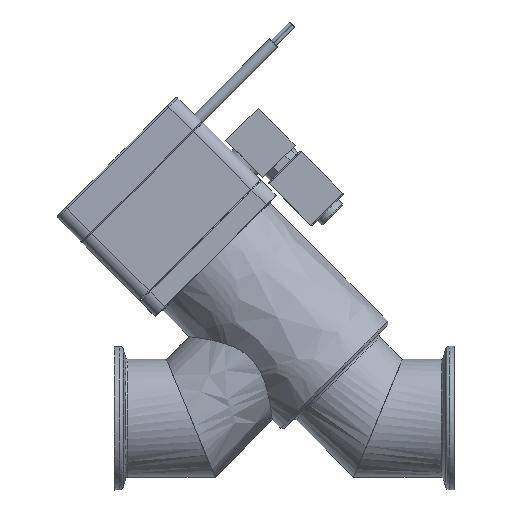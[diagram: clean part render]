
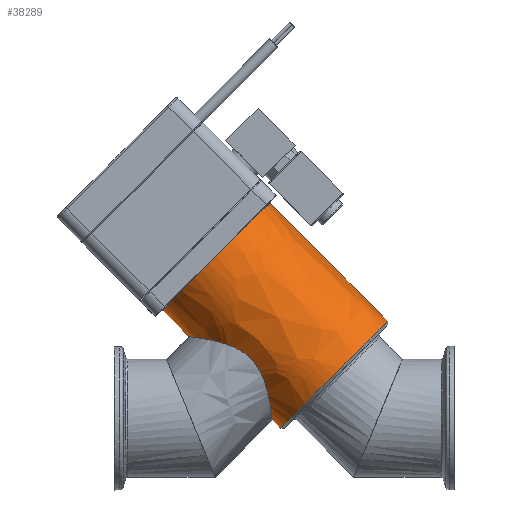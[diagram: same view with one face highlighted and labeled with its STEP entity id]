
A CAD part, top view. The second image highlights one B-rep face of the part: STEP entity #38289.
In plain terms, the highlighted free-form (B-spline) face has degree [2, 1] with [7, 2] control points.
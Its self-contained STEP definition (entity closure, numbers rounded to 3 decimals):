
#37288=CARTESIAN_POINT('V11',(102.,28.95,
   0.0));
#37289=VERTEX_POINT('V11',#37288);
#37313=CARTESIAN_POINT('E16',(102.,28.95,
   0.0));
#37314=CARTESIAN_POINT('E16',(102.0,28.95,
   -50.143));
#37315=CARTESIAN_POINT('E16',(102.,
   -14.475,-25.071));
#37316=CARTESIAN_POINT('E16',(102.0,-57.9,
   0.));
#37317=CARTESIAN_POINT('E16',(102.,
   -14.475,25.071));
#37318=CARTESIAN_POINT('E16',(102.0,28.95,
   50.143));
#37319=CARTESIAN_POINT('E16',(102.,28.95,
   0.0));
#37327=(BOUNDED_CURVE()B_SPLINE_CURVE(2,(#37313,#37314,#37315,
   #37316,#37317,#37318,#37319),.CIRCULAR_ARC.,.T.,.U.)
   B_SPLINE_CURVE_WITH_KNOTS((3,2,2,3),(0.0,355.788,
   711.577,1067.365),.UNSPECIFIED.)CURVE()
   GEOMETRIC_REPRESENTATION_ITEM()RATIONAL_B_SPLINE_CURVE((1.0,
   0.5,1.0,0.5,1.0,0.5,1.0)
   )REPRESENTATION_ITEM('E16'));
#37328=EDGE_CURVE('E16',#37289,#37289,#37327,.T.);
#38161=CARTESIAN_POINT('V8',(65.0,20.931,
   20.));
#38162=VERTEX_POINT('V8',#38161);
#38168=CARTESIAN_POINT('V9',(45.,28.95,
   0.0));
#38169=VERTEX_POINT('V9',#38168);
#38170=CARTESIAN_POINT('E10',(65.0,20.931,
   20.));
#38171=CARTESIAN_POINT('E10',(64.201,20.931,
   20.));
#38172=CARTESIAN_POINT('E10',(63.408,20.977,
   19.952));
#38173=CARTESIAN_POINT('E10',(59.932,21.369,
   19.536));
#38174=CARTESIAN_POINT('E10',(57.478,22.158,
   18.689));
#38175=CARTESIAN_POINT('E10',(53.132,23.977,
   16.297));
#38176=CARTESIAN_POINT('E10',(51.059,25.111,
   14.603));
#38177=CARTESIAN_POINT('E10',(47.714,27.115,
   10.395));
#38178=CARTESIAN_POINT('E10',(46.315,28.052,
   7.802));
#38179=CARTESIAN_POINT('E10',(45.192,28.816,
   3.188));
#38180=CARTESIAN_POINT('E10',(45.,28.95,
   1.603));
#38181=CARTESIAN_POINT('E10',(45.,28.95,
   0.0));
#38182=B_SPLINE_CURVE_WITH_KNOTS('E10',3,(#38170,#38171,#38172,
   #38173,#38174,#38175,#38176,#38177,#38178,#38179,#38180,#38181),
   .UNSPECIFIED.,.F.,.U.,(4,2,2,2,2,4),(0.0,0.076,
   0.337,0.61,0.87,1.0),
   .UNSPECIFIED.);
#38183=EDGE_CURVE('E10',#38162,#38169,#38182,.T.);
#38185=CARTESIAN_POINT('V10',(85.0,28.95,0.0));
#38186=VERTEX_POINT('V10',#38185);
#38187=CARTESIAN_POINT('E11',(45.,28.95,
   0.0));
#38188=CARTESIAN_POINT('E11',(45.,28.95,
   -1.87));
#38189=CARTESIAN_POINT('E11',(45.261,28.768,
   -3.714));
#38190=CARTESIAN_POINT('E11',(46.097,28.202,
   -6.643));
#38191=CARTESIAN_POINT('E11',(46.526,27.915,
   -7.752));
#38192=CARTESIAN_POINT('E11',(48.505,26.626,
   -11.788));
#38193=CARTESIAN_POINT('E11',(50.587,25.336,
   -14.162));
#38194=CARTESIAN_POINT('E11',(55.379,22.935,
   -17.813));
#38195=CARTESIAN_POINT('E11',(58.355,21.727,
   -19.147));
#38196=CARTESIAN_POINT('E11',(63.018,20.977,
   -19.954));
#38197=CARTESIAN_POINT('E11',(64.465,20.887,
   -20.047));
#38198=CARTESIAN_POINT('E11',(68.889,21.083,
   -19.841));
#38199=CARTESIAN_POINT('E11',(71.524,21.831,
   -19.062));
#38200=CARTESIAN_POINT('E11',(76.721,23.828,
   -16.547));
#38201=CARTESIAN_POINT('E11',(79.516,25.419,
   -14.257));
#38202=CARTESIAN_POINT('E11',(82.806,27.464,
   -9.36));
#38203=CARTESIAN_POINT('E11',(83.831,28.151,
   -7.205));
#38204=CARTESIAN_POINT('E11',(84.808,28.816,
   -3.188));
#38205=CARTESIAN_POINT('E11',(85.,28.95,
   -1.603));
#38206=CARTESIAN_POINT('E11',(85.,28.95,
   0.0));
#38207=B_SPLINE_CURVE_WITH_KNOTS('E11',3,(#38187,#38188,#38189,
   #38190,#38191,#38192,#38193,#38194,#38195,#38196,#38197,#38198,
   #38199,#38200,#38201,#38202,#38203,#38204,#38205,#38206),
   .UNSPECIFIED.,.F.,.U.,(4,2,2,2,2,2,2,2,2,4),(0.0,
   0.077,0.128,0.27,
   0.425,0.493,0.631,
   0.821,0.932,1.0),.UNSPECIFIED.);
#38208=EDGE_CURVE('E11',#38169,#38186,#38207,.T.);
#38210=CARTESIAN_POINT('E12',(85.,28.95,
   0.0));
#38211=CARTESIAN_POINT('E12',(85.,28.95,
   1.628));
#38212=CARTESIAN_POINT('E12',(84.802,28.812,
   3.236));
#38213=CARTESIAN_POINT('E12',(84.055,28.304,
   6.261));
#38214=CARTESIAN_POINT('E12',(83.534,27.953,
   7.658));
#38215=CARTESIAN_POINT('E12',(81.427,26.585,
   11.857));
#38216=CARTESIAN_POINT('E12',(79.397,25.33,
   14.167));
#38217=CARTESIAN_POINT('E12',(74.753,22.998,
   17.721));
#38218=CARTESIAN_POINT('E12',(71.917,21.837,
   19.025));
#38219=CARTESIAN_POINT('E12',(67.587,21.054,
   19.874));
#38220=CARTESIAN_POINT('E12',(66.303,20.931,
   20.));
#38221=CARTESIAN_POINT('E12',(65.0,20.931,
   20.));
#38222=B_SPLINE_CURVE_WITH_KNOTS('E12',3,(#38210,#38211,#38212,
   #38213,#38214,#38215,#38216,#38217,#38218,#38219,#38220,#38221),
   .UNSPECIFIED.,.F.,.U.,(4,2,2,2,2,4),(0.0,0.14,
   0.272,0.561,0.872,1.0),
   .UNSPECIFIED.);
#38223=EDGE_CURVE('E12',#38186,#38162,#38222,.T.);
#38230=CARTESIAN_POINT('F4',(37.,28.95,
   0.0));
#38231=CARTESIAN_POINT('F4',(37.,28.95,
   50.143));
#38232=CARTESIAN_POINT('F4',(37.,-14.475,
   25.071));
#38233=CARTESIAN_POINT('F4',(37.,-57.9,
   0.));
#38234=CARTESIAN_POINT('F4',(37.,-14.475,
   -25.071));
#38235=CARTESIAN_POINT('F4',(37.,28.95,
   -50.143));
#38236=CARTESIAN_POINT('F4',(37.,28.95,
   0.0));
#38237=CARTESIAN_POINT('F4',(102.,28.95,
   0.0));
#38238=CARTESIAN_POINT('F4',(102.0,28.95,
   50.143));
#38239=CARTESIAN_POINT('F4',(102.,-14.475,
   25.071));
#38240=CARTESIAN_POINT('F4',(102.0,-57.9,0.)
   );
#38241=CARTESIAN_POINT('F4',(102.,-14.475,
   -25.071));
#38242=CARTESIAN_POINT('F4',(102.0,28.95,
   -50.143));
#38243=CARTESIAN_POINT('F4',(102.,28.95,
   0.0));
#38251=(BOUNDED_SURFACE()B_SPLINE_SURFACE(2,1,((#38230,#38237),(
   #38231,#38238),(#38232,#38239),(#38233,#38240),(#38234,
   #38241),(#38235,#38242),(#38236,#38243)),.CYLINDRICAL_SURF.,
   .T.,.F.,.U.)B_SPLINE_SURFACE_WITH_KNOTS((3,2,2,3),(2,2),(0.0,
   1.543,3.086,4.629),(0.0,1.0),
   .UNSPECIFIED.)GEOMETRIC_REPRESENTATION_ITEM()
   RATIONAL_B_SPLINE_SURFACE(((1.0,1.0),(0.5,
   0.5),(1.0,1.0),(0.5,
   0.5),(1.0,1.0),(0.5,
   0.5),(1.0,1.0)))REPRESENTATION_ITEM('F4')SURFACE()
   );
#38252=CARTESIAN_POINT('V3',(38.,28.95,
   0.0));
#38253=VERTEX_POINT('V3',#38252);
#38254=CARTESIAN_POINT('E6',(38.,28.95,
   0.));
#38255=CARTESIAN_POINT('E6',(38.,28.95,
   50.143));
#38256=CARTESIAN_POINT('E6',(38.,-14.475,
   25.071));
#38257=CARTESIAN_POINT('E6',(38.,-57.9,
   0.));
#38258=CARTESIAN_POINT('E6',(38.,-14.475,
   -25.071));
#38259=CARTESIAN_POINT('E6',(38.,28.95,
   -50.143));
#38260=CARTESIAN_POINT('E6',(38.,28.95,
   0.));
#38268=(BOUNDED_CURVE()B_SPLINE_CURVE(2,(#38254,#38255,#38256,
   #38257,#38258,#38259,#38260),.CIRCULAR_ARC.,.T.,.U.)
   B_SPLINE_CURVE_WITH_KNOTS((3,2,2,3),(2.0,43.393,
   84.786,126.179),.UNSPECIFIED.)CURVE()
   GEOMETRIC_REPRESENTATION_ITEM()RATIONAL_B_SPLINE_CURVE((1.0,
   0.5,1.0,0.5,1.0,0.5,1.0)
   )REPRESENTATION_ITEM('E6'));
#38269=EDGE_CURVE('E6',#38253,#38253,#38268,.T.);
#38270=ORIENTED_EDGE('E6',*,*,#38269,.F.);
#38271=CARTESIAN_POINT('E14',(45.,28.95,
   0.0));
#38272=CARTESIAN_POINT('E14',(38.,28.95,
   0.0));
#38273=B_SPLINE_CURVE_WITH_KNOTS('E14',1,(#38271,#38272),
   .POLYLINE_FORM.,.F.,.U.,(2,2),(0.877,
   0.985),.UNSPECIFIED.);
#38274=EDGE_CURVE('E14',#38169,#38253,#38273,.T.);
#38275=ORIENTED_EDGE('E14',*,*,#38274,.F.);
#38276=ORIENTED_EDGE('E10',*,*,#38183,.F.);
#38277=ORIENTED_EDGE('E12',*,*,#38223,.F.);
#38278=CARTESIAN_POINT('E15',(102.,28.95,
   0.0));
#38279=CARTESIAN_POINT('E15',(85.,28.95,
   0.0));
#38280=B_SPLINE_CURVE_WITH_KNOTS('E15',1,(#38278,#38279),
   .POLYLINE_FORM.,.F.,.U.,(2,2),(0.0,0.262),
   .UNSPECIFIED.);
#38281=EDGE_CURVE('E15',#37289,#38186,#38280,.T.);
#38282=ORIENTED_EDGE('E15',*,*,#38281,.F.);
#38283=ORIENTED_EDGE('F16',*,*,#37328,.F.);
#38284=ORIENTED_EDGE('E15',*,*,#38281,.T.);
#38285=ORIENTED_EDGE('E11',*,*,#38208,.F.);
#38286=ORIENTED_EDGE('E14',*,*,#38274,.T.);
#38287=EDGE_LOOP('F4',(#38270,#38275,#38276,#38277,#38282,#38283,
   #38284,#38285,#38286));
#38288=FACE_OUTER_BOUND('F4',#38287,.F.);
#38289=ADVANCED_FACE('F4',(#38288),#38251,.T.);
